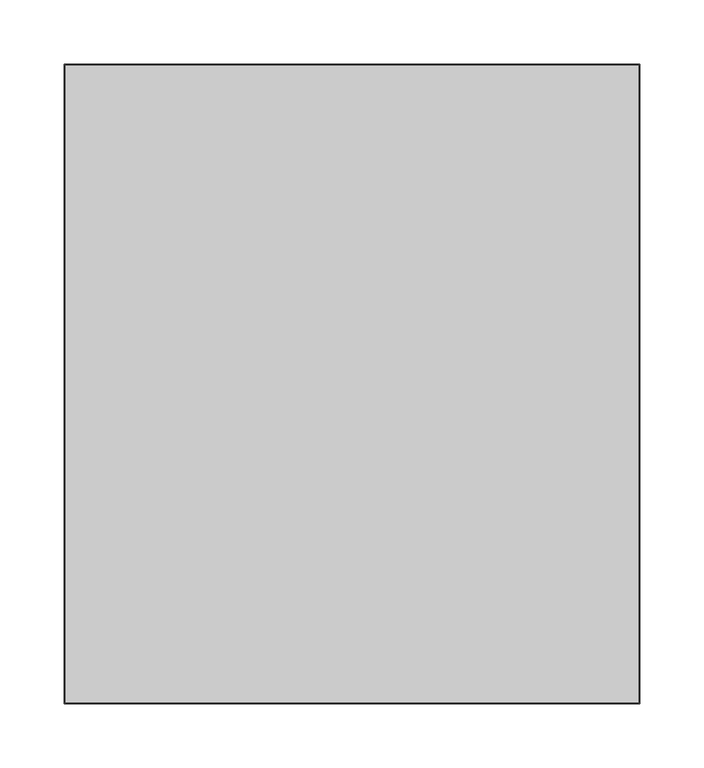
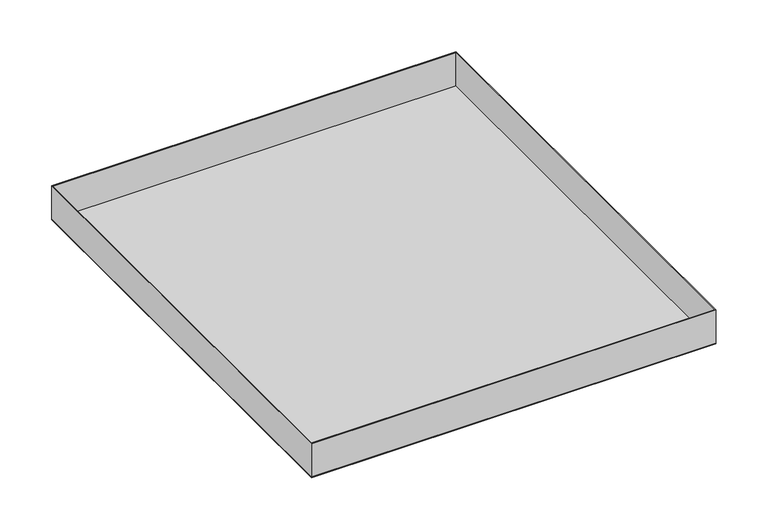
"""IFC4 building model written with IfcOpenShell, lengths in millimetres: proxy geometry, durlum_S5-100_RHOMBOS_panel : durlum_S5-100_RHOMBOS_panel_wall_corner."""

from ifc_helpers import new_model, si_unit, frame, origin, origin_with_axes, place, context, project, spatial, polyline, outline, extrude, source, transform, mapped, element, save


def generic_models_4de4666e(model_context):
    return source(origin(), model_context, "Body", "SweptSolid", [
        extrude(outline(polyline([(224.75, 249.75), (224.75, -249.75), (-224.75, -249.75), (-224.75, 249.75), (224.75, 249.75)]), holes=[polyline([(223.75, 248.75), (-223.75, 248.75), (-223.75, -248.75), (223.75, -248.75), (223.75, 248.75)])]), frame((0.0, 0.0, 1.0), z_axis=(0.0, 0.0, 1.0), x_axis=(1.0, 0.0, 0.0)), (0.0, 0.0, 1.0), 39.0),
        extrude(outline(polyline([(224.75, 249.75), (224.75, -249.75), (-224.75, -249.75), (-224.75, 249.75), (224.75, 249.75)])), origin_with_axes(), (0.0, 0.0, 1.0), 1.0),
    ])


if __name__ == "__main__":
    model = new_model("IFC4")
    model_context = context("Model", 3, world=origin())
    ifc_project = project(units=[si_unit("LENGTHUNIT", "METRE", prefix="MILLI")], contexts=[model_context])
    site = spatial("IfcSite", under=ifc_project)
    building = spatial("IfcBuilding", under=site)
    placement = place(None, origin())
    generic_models_shape = generic_models_4de4666e(model_context)
    element("IfcBuildingElementProxy", 1, Name="durlum_S5-100_RHOMBOS_panel : durlum_S5-100_RHOMBOS_panel_wall_corner", ObjectType="durlum_S5-100_RHOMBOS_panel : durlum_S5-100_RHOMBOS_panel_wall_corner", at=placement, inside=building, context=model_context, shape_type="MappedRepresentation", body=[
        mapped(generic_models_shape, transform((0.0, 0.0, 0.0), x_axis=(1.0, 0.0, 0.0), y_axis=(0.0, 1.0, 0.0), z_axis=(0.0, 0.0, 1.0))),
    ])
    save(model, "model.ifc")
